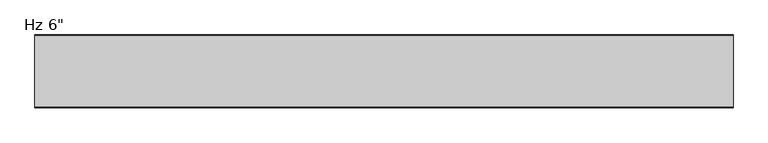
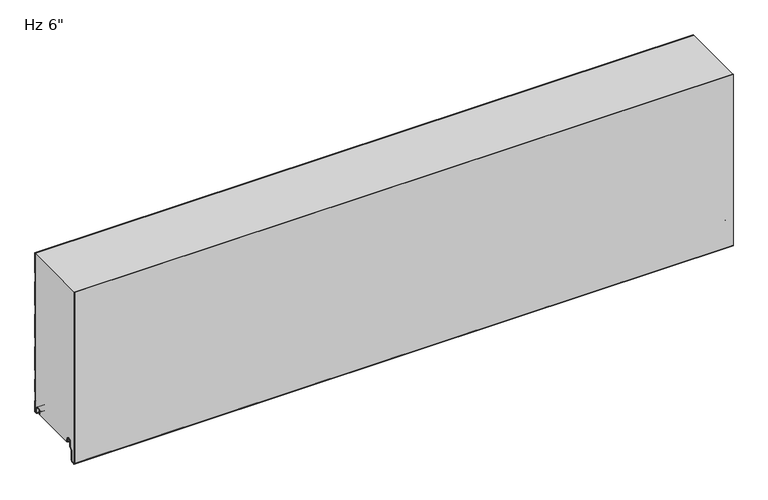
"""IFC4 building model written with IfcOpenShell, lengths in millimetres: plate geometry."""

from ifc_helpers import new_model, si_unit, point, frame, frame_2d, origin, place, context, project, spatial, polyline, circle_curve, trimmed, segment, composite_curve, outline, extrude, source, transform, mapped, element, save
from ifc_brep_helpers import plane_surface, cylinder_surface, revolved_surface, advanced_brep


def plate_f7d125d8(model_context):
    return source(origin(), model_context, "Body", "SolidModel", [
        extrude(outline(composite_curve([segment(trimmed(circle_curve(frame_2d((-148.8297607, -32.4521176)), 3.5702393), [point((-148.5184903, -36.008762))], [point((-152.4, -32.4521154))], False, "CARTESIAN"), True, "CONTINUOUS"), segment(polyline([(-152.4, -32.4521154), (-152.3997439, 368.0), (-151.3993606, 368.0), (-151.3993606, -32.509446)]), True, "CONTINUOUS"), segment(trimmed(circle_curve(frame_2d((-148.8297607, -32.4521176)), 2.5702393), [point((-151.3993606, -32.509446))], [point((-148.6056751, -35.0125699))], True, "CARTESIAN"), True, "CONTINUOUS"), segment(polyline([(-148.6056751, -35.0125699), (-143.6238542, -34.5765709)]), True, "CONTINUOUS"), segment(trimmed(circle_curve(frame_2d((-144.1052448, -31.9198392)), 2.6999926), [point((-143.6238542, -34.5765709))], [point((-141.4052522, -31.9198392))], True, "CARTESIAN"), True, "CONTINUOUS"), segment(polyline([(-141.4052522, -31.9198392), (-141.4052522, -9.8247096), (-135.9031811, -4.3226385)]), True, "CONTINUOUS"), segment(trimmed(circle_curve(frame_2d((-137.1052588, -3.1205608)), 1.6999946), [point((-135.9031811, -4.3226385))], [point((-135.4052642, -3.1205608))], True, "CARTESIAN"), True, "CONTINUOUS"), segment(polyline([(-135.4052642, -3.1205608), (-135.4052642, 8.6903283)]), True, "CONTINUOUS"), segment(trimmed(circle_curve(frame_2d((-132.0552689, 8.6903283)), 3.3499953), [point((-135.4052642, 8.6903283))], [point((-132.0552689, 12.0403236))], False, "CARTESIAN"), True, "CONTINUOUS"), segment(polyline([(-132.0552689, 12.0403236), (-127.6552777, 12.0403236)]), True, "CONTINUOUS"), segment(trimmed(circle_curve(frame_2d((-127.6552777, 8.6903283)), 3.3499953), [point((-127.6552777, 12.0403236))], [point((-124.3052824, 8.6903283))], False, "CARTESIAN"), True, "CONTINUOUS"), segment(polyline([(-124.3052824, 8.6903283), (-124.3052824, 5.9912173), (-122.9068035, 5.9912173), (-122.9068035, 2.2328239)]), True, "CONTINUOUS"), segment(trimmed(circle_curve(frame_2d((-124.1068002, 2.2313092)), 1.1999976), [point((-122.9068035, 2.2328239))], [point((-124.0762782, 1.0316999))], False, "CARTESIAN"), True, "CONTINUOUS"), segment(trimmed(circle_curve(frame_2d((-124.1068002, 2.2313092)), 1.1999976), [point((-124.0762782, 1.0316999))], [point((-125.3052824, 2.1710221))], False, "CARTESIAN"), True, "CONTINUOUS"), segment(polyline([(-125.3052824, 2.1710221), (-125.3052824, 8.6903283)]), True, "CONTINUOUS"), segment(trimmed(circle_curve(frame_2d((-127.6552777, 8.6903283)), 2.3499953), [point((-125.3052824, 8.6903283))], [point((-127.6552777, 11.0403236))], True, "CARTESIAN"), True, "CONTINUOUS"), segment(polyline([(-127.6552777, 11.0403236), (-132.0552689, 11.0403236)]), True, "CONTINUOUS"), segment(trimmed(circle_curve(frame_2d((-132.0552689, 8.6903283)), 2.3499953), [point((-132.0552689, 11.0403236))], [point((-134.4052642, 8.6903283))], True, "CARTESIAN"), True, "CONTINUOUS"), segment(polyline([(-134.4052642, 8.6903283), (-134.4052642, -3.1205608)]), True, "CONTINUOUS"), segment(trimmed(circle_curve(frame_2d((-137.1052588, -3.1205608)), 2.6999946), [point((-134.4052642, -3.1205608))], [point((-135.1960743, -5.0297453))], False, "CARTESIAN"), True, "CONTINUOUS"), segment(polyline([(-135.1960743, -5.0297453), (-140.0244918, -9.8581627)]), True, "CONTINUOUS"), segment(trimmed(circle_curve(frame_2d((-139.1052548, -10.7773997)), 1.2999974), [point((-140.0244918, -9.8581627))], [point((-140.4052522, -10.7773997))], True, "CARTESIAN"), True, "CONTINUOUS"), segment(polyline([(-140.4052522, -10.7773997), (-140.4052522, -31.9198392)]), True, "CONTINUOUS"), segment(trimmed(circle_curve(frame_2d((-144.1052448, -31.9198392)), 3.6999926), [point((-140.4052522, -31.9198392))], [point((-143.4944437, -35.5690675))], False, "CARTESIAN"), True, "CONTINUOUS"), segment(polyline([(-143.4944437, -35.5690675), (-148.5184903, -36.008762)]), True, "CONTINUOUS")], self_intersect=False)), frame((-730.0, 0.0, 0.0), z_axis=(1.0, 0.0, 0.0), x_axis=(0.0, 1.0, 0.0)), (0.0, 0.0, 1.0), 1460.0),
        advanced_brep(
        [(-730.0, -17.0015159, 2.0313088), (-730.0, -18.0015191, 1.0313115), (-730.0, -19.0015105, 2.0313088), (-730.0, -19.0015105, 6.0315124), (-730.0, -18.0015159, 6.0315124), (-730.0, -18.0015159, 8.7237222), (-730.0, -14.7015202, 12.0237179), (-730.0, -10.301529, 12.0237179), (-730.0, -7.0015335, 8.7237224), (-730.0, -7.0015335, -1.6962565), (-730.0, -5.2315393, -3.4662507), (-730.0, -0.9999916, -3.4662507), (-730.0, -0.9999916, 21.034026), (-730.0, -2.2002307, 22.4196686), (-730.0, -2.2002307, 41.7948349), (-730.0, -1.0, 43.1804678), (-730.0, -1.0, 71.8338832), (-730.0, -2.2002307, 73.2195162), (-730.0, -2.2002307, 92.5946825), (-730.0, -1.0, 93.9803154), (-730.0, -1.0, 148.0337308), (-730.0, -2.2002307, 149.4193638), (-730.0, -2.2002307, 168.7945301), (-730.0, -1.0, 170.180163), (-730.0, -1.0, 224.2335784), (-730.0, -2.2002307, 225.6192114), (-730.0, -2.2002307, 244.9943777), (-730.0, -1.0, 246.3800106), (-730.0, -1.0, 300.433426), (-730.0, -2.2002307, 301.819059), (-730.0, -2.2002307, 321.1942253), (-730.0, -1.0, 322.5798582), (-730.0, -1.0, 368.0), (-730.0, 0.0, 368.0), (-730.0, 0.0, 322.7290094), (-730.0, -0.3417885, 321.8123925), (-730.0, -1.2002307, 320.8213449), (-730.0, -1.2002307, 302.1919394), (-730.0, -0.3417885, 301.2008918), (-730.0, 0.0, 300.2842749), (-730.0, 0.0, 246.5291618), (-730.0, -0.3417885, 245.6125449), (-730.0, -1.2002307, 244.6214973), (-730.0, -1.2002307, 225.9920918), (-730.0, -0.3417885, 225.0010442), (-730.0, 0.0, 224.0844273), (-730.0, 0.0, 170.3293142), (-730.0, -0.3417885, 169.4126973), (-730.0, -1.2002307, 168.4216497), (-730.0, -1.2002307, 149.7922442), (-730.0, -0.3417885, 148.8011966), (-730.0, 0.0, 147.8845797), (-730.0, 0.0, 94.1294666), (-730.0, -0.3417885, 93.2128497), (-730.0, -1.2002307, 92.2218021), (-730.0, -1.2002307, 73.5923966), (-730.0, -0.3417885, 72.601349), (-730.0, 0.0, 71.6847321), (-730.0, 0.0, 43.329619), (-730.0, -0.3417885, 42.4130021), (-730.0, -1.2002307, 41.4219545), (-730.0, -1.2002307, 22.792549), (-730.0, -0.3417885, 21.8015014), (-730.0, 0.0, 20.8847931), (-730.0, 8.4e-06, -3.0662545), (-730.0, -1.3999878, -4.4662507), (-730.0, -5.2315393, -4.4662507), (-730.0, -8.0015335, -1.6962565), (-730.0, -8.0015335, 8.7237224), (-730.0, -10.301529, 11.0237179), (-730.0, -14.7015202, 11.0237179), (-730.0, -17.0015159, 8.7237222), (730.0, -17.0015159, 2.0313088), (730.0, -17.0015159, 8.7237222), (730.0, -14.7015202, 11.0237179), (730.0, -10.301529, 11.0237179), (730.0, -8.0015335, 8.7237224), (730.0, -8.0015335, -1.6962565), (730.0, -5.2315393, -4.4662507), (730.0, -1.3999878, -4.4662507), (730.0, 8.4e-06, -3.0662545), (730.0, 8.4e-06, 20.8848845), (730.0, -0.3417885, 21.8015014), (730.0, -1.2002307, 22.792549), (730.0, -1.2002307, 41.4219545), (730.0, -0.3417885, 42.4130021), (730.0, 0.0, 43.329619), (730.0, 0.0, 71.6847321), (730.0, -0.3417885, 72.601349), (730.0, -1.2002307, 73.5923966), (730.0, -1.2002307, 92.2218021), (730.0, -0.3417885, 93.2128497), (730.0, 0.0, 94.1294666), (730.0, 0.0, 147.8845797), (730.0, -0.3417885, 148.8011966), (730.0, -1.2002307, 149.7922442), (730.0, -1.2002307, 168.4216497), (730.0, -0.3417885, 169.4126973), (730.0, 0.0, 170.3293142), (730.0, 0.0, 224.0844273), (730.0, -0.3417885, 225.0010442), (730.0, -1.2002307, 225.9920918), (730.0, -1.2002307, 244.6214973), (730.0, -0.3417885, 245.6125449), (730.0, 0.0, 246.5291618), (730.0, 0.0, 300.2842749), (730.0, -0.3417885, 301.2008918), (730.0, -1.2002307, 302.1919394), (730.0, -1.2002307, 320.8213449), (730.0, -0.3417885, 321.8123925), (730.0, 0.0, 322.7290094), (730.0, 0.0, 368.0), (730.0, -1.0, 368.0), (730.0, -1.0, 322.5798582), (730.0, -2.2002307, 321.1942253), (730.0, -2.2002307, 301.819059), (730.0, -1.0, 300.433426), (730.0, -1.0, 246.3800106), (730.0, -2.2002307, 244.9943777), (730.0, -2.2002307, 225.6192114), (730.0, -1.0, 224.2335784), (730.0, -1.0, 170.180163), (730.0, -2.2002307, 168.7945301), (730.0, -2.2002307, 149.4193638), (730.0, -1.0, 148.0337308), (730.0, -1.0, 93.9803154), (730.0, -2.2002307, 92.5946825), (730.0, -2.2002307, 73.2195162), (730.0, -1.0, 71.8338832), (730.0, -1.0, 43.1804678), (730.0, -2.2002307, 41.7948349), (730.0, -2.2002307, 22.4196686), (730.0, -0.9999916, 21.034026), (730.0, -0.9999916, -3.4662507), (730.0, -5.2315393, -3.4662507), (730.0, -7.0015335, -1.6962565), (730.0, -7.0015335, 8.7237224), (730.0, -10.301529, 12.0237179), (730.0, -14.7015202, 12.0237179), (730.0, -18.0015159, 8.7237222), (730.0, -18.0015159, 6.0315124), (730.0, -19.0015105, 6.0315124), (730.0, -19.0015105, 2.0313088), (730.0, -18.0015192, 1.0313116)],
        [
            (0, 1, circle_curve(frame((-730.0, -18.0015132, 2.0313088), z_axis=(-1.0, 0.0, 0.0), x_axis=(0.0, 0.0, 1.0)), 0.9999973)),
            (1, 2, circle_curve(frame((-730.0, -18.0015133, 2.0313088), z_axis=(-1.0, 0.0, 0.0), x_axis=(0.0, 0.0, 1.0)), 0.9999972)),
            (2, 3),
            (3, 4),
            (4, 5),
            (5, 6, circle_curve(frame((-730.0, -14.7015202, 8.7237222), z_axis=(-1.0, 0.0, 0.0), x_axis=(0.0, 0.0, 1.0)), 3.2999957)),
            (6, 7),
            (7, 8, circle_curve(frame((-730.0, -10.301529, 8.7237224), z_axis=(-1.0, 0.0, 0.0), x_axis=(0.0, 0.0, 1.0)), 3.2999955)),
            (8, 9),
            (9, 10, circle_curve(frame((-730.0, -5.2315393, -1.6962565), z_axis=(1.0, 0.0, 0.0), x_axis=(0.0, 0.0, 1.0)), 1.7699942)),
            (10, 11),
            (11, 12),
            (12, 13),
            (13, 14),
            (14, 15),
            (15, 16),
            (16, 17),
            (17, 18),
            (18, 19),
            (19, 20),
            (20, 21),
            (21, 22),
            (22, 23),
            (23, 24),
            (24, 25),
            (25, 26),
            (26, 27),
            (27, 28),
            (28, 29),
            (29, 30),
            (30, 31),
            (31, 32),
            (32, 33),
            (33, 34),
            (34, 35, circle_curve(frame((-730.0, -1.3999972, 322.7290094), z_axis=(-1.0, 0.0, 0.0), x_axis=(0.0, 0.0, 1.0)), 1.3999972)),
            (35, 36),
            (36, 37),
            (37, 38),
            (38, 39, circle_curve(frame((-730.0, -1.3999972, 300.2842749), z_axis=(-1.0, 0.0, 0.0), x_axis=(0.0, 0.0, 1.0)), 1.3999972)),
            (39, 40),
            (40, 41, circle_curve(frame((-730.0, -1.3999972, 246.5291618), z_axis=(-1.0, 0.0, 0.0), x_axis=(0.0, 0.0, 1.0)), 1.3999972)),
            (41, 42),
            (42, 43),
            (43, 44),
            (44, 45, circle_curve(frame((-730.0, -1.3999972, 224.0844273), z_axis=(-1.0, 0.0, 0.0), x_axis=(0.0, 0.0, 1.0)), 1.3999972)),
            (45, 46),
            (46, 47, circle_curve(frame((-730.0, -1.3999972, 170.3293142), z_axis=(-1.0, 0.0, 0.0), x_axis=(0.0, 0.0, 1.0)), 1.3999972)),
            (47, 48),
            (48, 49),
            (49, 50),
            (50, 51, circle_curve(frame((-730.0, -1.3999972, 147.8845797), z_axis=(-1.0, 0.0, 0.0), x_axis=(0.0, 0.0, 1.0)), 1.3999972)),
            (51, 52),
            (52, 53, circle_curve(frame((-730.0, -1.3999972, 94.1294666), z_axis=(-1.0, 0.0, 0.0), x_axis=(0.0, 0.0, 1.0)), 1.3999972)),
            (53, 54),
            (54, 55),
            (55, 56),
            (56, 57, circle_curve(frame((-730.0, -1.3999972, 71.6847321), z_axis=(-1.0, 0.0, 0.0), x_axis=(0.0, 0.0, 1.0)), 1.3999972)),
            (57, 58),
            (58, 59, circle_curve(frame((-730.0, -1.3999972, 43.329619), z_axis=(-1.0, 0.0, 0.0), x_axis=(0.0, 0.0, 1.0)), 1.3999972)),
            (59, 60),
            (60, 61),
            (61, 62),
            (62, 63, circle_curve(frame((-730.0, -1.3999972, 20.8848845), z_axis=(-1.0, 0.0, 0.0), x_axis=(0.0, 0.0, 1.0)), 1.3999972)),
            (63, 64),
            (64, 65, circle_curve(frame((-730.0, -1.3999878, -3.0662545), z_axis=(-1.0, 0.0, 0.0), x_axis=(0.0, 0.0, 1.0)), 1.3999962)),
            (65, 66),
            (66, 67, circle_curve(frame((-730.0, -5.2315393, -1.6962565), z_axis=(-1.0, 0.0, 0.0), x_axis=(0.0, 0.0, 1.0)), 2.7699942)),
            (67, 68),
            (68, 69, circle_curve(frame((-730.0, -10.301529, 8.7237224), z_axis=(1.0, 0.0, 0.0), x_axis=(0.0, 0.0, 1.0)), 2.2999955)),
            (69, 70),
            (70, 71, circle_curve(frame((-730.0, -14.7015202, 8.7237222), z_axis=(1.0, 0.0, 0.0), x_axis=(0.0, 0.0, 1.0)), 2.2999957)),
            (71, 0),
            (72, 73),
            (73, 74, circle_curve(frame((730.0, -14.7015202, 8.7237222), z_axis=(-1.0, 0.0, 0.0), x_axis=(0.0, 0.0, 1.0)), 2.2999957)),
            (74, 75),
            (75, 76, circle_curve(frame((730.0, -10.301529, 8.7237224), z_axis=(-1.0, 0.0, 0.0), x_axis=(0.0, 0.0, 1.0)), 2.2999955)),
            (76, 77),
            (77, 78, circle_curve(frame((730.0, -5.2315393, -1.6962565), z_axis=(1.0, 0.0, 0.0), x_axis=(0.0, 0.0, 1.0)), 2.7699942)),
            (78, 79),
            (79, 80, circle_curve(frame((730.0, -1.3999878, -3.0662545), z_axis=(1.0, 0.0, 0.0), x_axis=(0.0, 0.0, 1.0)), 1.3999962)),
            (80, 81),
            (81, 82, circle_curve(frame((730.0, -1.3999972, 20.8848845), z_axis=(1.0, 0.0, 0.0), x_axis=(0.0, 0.0, 1.0)), 1.3999972)),
            (82, 83),
            (83, 84),
            (84, 85),
            (85, 86, circle_curve(frame((730.0, -1.3999972, 43.329619), z_axis=(1.0, 0.0, 0.0), x_axis=(0.0, 0.0, 1.0)), 1.3999972)),
            (86, 87),
            (87, 88, circle_curve(frame((730.0, -1.3999972, 71.6847321), z_axis=(1.0, 0.0, 0.0), x_axis=(0.0, 0.0, 1.0)), 1.3999972)),
            (88, 89),
            (89, 90),
            (90, 91),
            (91, 92, circle_curve(frame((730.0, -1.3999972, 94.1294666), z_axis=(1.0, 0.0, 0.0), x_axis=(0.0, 0.0, 1.0)), 1.3999972)),
            (92, 93),
            (93, 94, circle_curve(frame((730.0, -1.3999972, 147.8845797), z_axis=(1.0, 0.0, 0.0), x_axis=(0.0, 0.0, 1.0)), 1.3999972)),
            (94, 95),
            (95, 96),
            (96, 97),
            (97, 98, circle_curve(frame((730.0, -1.3999972, 170.3293142), z_axis=(1.0, 0.0, 0.0), x_axis=(0.0, 0.0, 1.0)), 1.3999972)),
            (98, 99),
            (99, 100, circle_curve(frame((730.0, -1.3999972, 224.0844273), z_axis=(1.0, 0.0, 0.0), x_axis=(0.0, 0.0, 1.0)), 1.3999972)),
            (100, 101),
            (101, 102),
            (102, 103),
            (103, 104, circle_curve(frame((730.0, -1.3999972, 246.5291618), z_axis=(1.0, 0.0, 0.0), x_axis=(0.0, 0.0, 1.0)), 1.3999972)),
            (104, 105),
            (105, 106, circle_curve(frame((730.0, -1.3999972, 300.2842749), z_axis=(1.0, 0.0, 0.0), x_axis=(0.0, 0.0, 1.0)), 1.3999972)),
            (106, 107),
            (107, 108),
            (108, 109),
            (109, 110, circle_curve(frame((730.0, -1.3999972, 322.7290094), z_axis=(1.0, 0.0, 0.0), x_axis=(0.0, 0.0, 1.0)), 1.3999972)),
            (110, 111),
            (111, 112),
            (112, 113),
            (113, 114),
            (114, 115),
            (115, 116),
            (116, 117),
            (117, 118),
            (118, 119),
            (119, 120),
            (120, 121),
            (121, 122),
            (122, 123),
            (123, 124),
            (124, 125),
            (125, 126),
            (126, 127),
            (127, 128),
            (128, 129),
            (129, 130),
            (130, 131),
            (131, 132),
            (132, 133),
            (133, 134),
            (134, 135, circle_curve(frame((730.0, -5.2315393, -1.6962565), z_axis=(-1.0, 0.0, 0.0), x_axis=(0.0, 0.0, 1.0)), 1.7699942)),
            (135, 136),
            (136, 137, circle_curve(frame((730.0, -10.301529, 8.7237224), z_axis=(1.0, 0.0, 0.0), x_axis=(0.0, 0.0, 1.0)), 3.2999955)),
            (137, 138),
            (138, 139, circle_curve(frame((730.0, -14.7015202, 8.7237222), z_axis=(1.0, 0.0, 0.0), x_axis=(0.0, 0.0, 1.0)), 3.2999957)),
            (139, 140),
            (140, 141),
            (141, 142),
            (142, 143, circle_curve(frame((730.0, -18.0015133, 2.0313088), z_axis=(1.0, 0.0, 0.0), x_axis=(0.0, 0.0, 1.0)), 0.9999972)),
            (143, 72, circle_curve(frame((730.0, -18.0015132, 2.0313088), z_axis=(1.0, 0.0, 0.0), x_axis=(0.0, 0.0, 1.0)), 0.9999973)),
            (32, 112),
            (111, 33),
            (67, 77),
            (76, 68),
            (0, 72),
            (143, 1),
            (71, 73),
            (70, 74),
            (75, 69),
            (65, 79),
            (78, 66),
            (64, 80),
            (63, 81),
            (2, 142),
            (141, 3),
            (56, 88),
            (87, 57),
            (61, 83),
            (82, 62),
            (60, 84),
            (58, 86),
            (85, 59),
            (50, 94),
            (93, 51),
            (54, 90),
            (89, 55),
            (52, 92),
            (91, 53),
            (44, 100),
            (99, 45),
            (48, 96),
            (95, 49),
            (46, 98),
            (97, 47),
            (38, 106),
            (105, 39),
            (42, 102),
            (101, 43),
            (40, 104),
            (103, 41),
            (36, 108),
            (107, 37),
            (34, 110),
            (109, 35),
            (27, 117),
            (116, 28),
            (115, 29),
            (114, 30),
            (113, 31),
            (26, 118),
            (25, 119),
            (24, 120),
            (23, 121),
            (22, 122),
            (21, 123),
            (20, 124),
            (19, 125),
            (18, 126),
            (17, 127),
            (16, 128),
            (15, 129),
            (14, 130),
            (140, 4),
            (139, 5),
            (138, 6),
            (137, 7),
            (136, 8),
            (135, 9),
            (12, 132),
            (131, 13),
            (11, 133),
            (10, 134),
        ],
        [
            plane_surface(frame((-730.0, 0.0, 508.0), z_axis=(-1.0, 0.0, 0.0), x_axis=(0.0, 1.0, 0.0))),
            plane_surface(frame((730.0, 0.0, 508.0), z_axis=(1.0, 0.0, 0.0), x_axis=(0.0, 1.0, 0.0))),
            plane_surface(frame((730.0, 10.0, 368.0), z_axis=(0.0, 0.0, 1.0), x_axis=(-1.0, 0.0, 0.0))),
            plane_surface(frame((-730.0, -8.0015335, 8.7237224), z_axis=(0.0, -1.0, 0.0), x_axis=(1.0, 0.0, 0.0))),
            cylinder_surface(frame((-730.0, -18.0015132, 2.0313088), z_axis=(-1.0, 0.0, 0.0), x_axis=(0.0, 0.0, 1.0)), 0.9999973),
            plane_surface(frame((-730.0, -17.0015159, 2.0313088), z_axis=(0.0, 1.0, 0.0), x_axis=(1.0, 0.0, 0.0))),
            revolved_surface(polyline([(730.0, -14.7015202, 11.0237179), (-730.0, -14.7015202, 11.0237179)]), (-730.0, -14.7015202, 8.7237222), (1.0, 0.0, 0.0)),
            revolved_surface(polyline([(730.0, -10.301529, 11.0237179), (-730.0, -10.301529, 11.0237179)]), (-730.0, -10.301529, 8.7237224), (1.0, 0.0, 0.0)),
            plane_surface(frame((-730.0, -14.7015202, 11.0237179), z_axis=(0.0, 0.0, -1.0), x_axis=(1.0, 0.0, 0.0))),
            plane_surface(frame((-730.0, -5.2315393, -4.4662507), z_axis=(0.0, 0.0, -1.0), x_axis=(1.0, 0.0, 0.0))),
            cylinder_surface(frame((-730.0, -1.3999878, -3.0662545), z_axis=(-1.0, 0.0, 0.0), x_axis=(0.0, 0.0, 1.0)), 1.3999962),
            cylinder_surface(frame((-730.0, -5.2315393, -1.6962565), z_axis=(-1.0, 0.0, 0.0), x_axis=(0.0, 0.0, 1.0)), 2.7699942),
            plane_surface(frame((-730.0, 8.4e-06, -3.0662545), z_axis=(0.0, 1.0, 0.0), x_axis=(1.0, 0.0, 0.0))),
            plane_surface(frame((-730.0, -19.0015105, 6.0315124), z_axis=(0.0, -1.0, 0.0), x_axis=(1.0, 0.0, 0.0))),
            cylinder_surface(frame((-730.0, -18.0015133, 2.0313088), z_axis=(-1.0, 0.0, 0.0), x_axis=(0.0, 0.0, 1.0)), 0.9999972),
            cylinder_surface(frame((-730.0, -1.3999972, 71.6847321), z_axis=(-1.0, 0.0, 0.0), x_axis=(0.0, 0.0, 1.0)), 1.3999972),
            plane_surface(frame((-730.0, -0.3417885, 21.8015014), z_axis=(0.0, 0.755864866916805, 0.6547276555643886), x_axis=(1.0, 0.0, 0.0))),
            plane_surface(frame((-730.0, -1.2002307, 32.1072517), z_axis=(0.0, 1.0, 0.0), x_axis=(1.0, 0.0, 0.0))),
            cylinder_surface(frame((-730.0, -1.3999972, 20.8848845), z_axis=(-1.0, 0.0, 0.0), x_axis=(0.0, 0.0, 1.0)), 1.3999972),
            cylinder_surface(frame((-730.0, -1.3999972, 43.329619), z_axis=(-1.0, 0.0, 0.0), x_axis=(0.0, 0.0, 1.0)), 1.3999972),
            plane_surface(frame((-730.0, -1.2002307, 41.4219545), z_axis=(0.0, 0.755864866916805, -0.6547276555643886), x_axis=(1.0, 0.0, 0.0))),
            cylinder_surface(frame((-730.0, -1.3999972, 147.8845797), z_axis=(-1.0, 0.0, 0.0), x_axis=(0.0, 0.0, 1.0)), 1.3999972),
            plane_surface(frame((-730.0, -1.2002307, 82.9070993), z_axis=(0.0, 1.0, 0.0), x_axis=(1.0, 0.0, 0.0))),
            cylinder_surface(frame((-730.0, -1.3999972, 94.1294666), z_axis=(-1.0, 0.0, 0.0), x_axis=(0.0, 0.0, 1.0)), 1.3999972),
            plane_surface(frame((-730.0, -0.3417885, 72.601349), z_axis=(0.0, 0.755864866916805, 0.6547276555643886), x_axis=(1.0, 0.0, 0.0))),
            plane_surface(frame((-730.0, -1.2002307, 92.2218021), z_axis=(0.0, 0.755864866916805, -0.6547276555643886), x_axis=(1.0, 0.0, 0.0))),
            plane_surface(frame((-730.0, 0.0, 43.329619), z_axis=(0.0, 1.0, 0.0), x_axis=(1.0, 0.0, 0.0))),
            cylinder_surface(frame((-730.0, -1.3999972, 224.0844273), z_axis=(-1.0, 0.0, 0.0), x_axis=(0.0, 0.0, 1.0)), 1.3999972),
            plane_surface(frame((-730.0, -1.2002307, 159.1069469), z_axis=(0.0, 1.0, 0.0), x_axis=(1.0, 0.0, 0.0))),
            cylinder_surface(frame((-730.0, -1.3999972, 170.3293142), z_axis=(-1.0, 0.0, 0.0), x_axis=(0.0, 0.0, 1.0)), 1.3999972),
            plane_surface(frame((-730.0, -0.3417885, 148.8011966), z_axis=(0.0, 0.755864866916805, 0.6547276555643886), x_axis=(1.0, 0.0, 0.0))),
            plane_surface(frame((-730.0, -1.2002307, 168.4216497), z_axis=(0.0, 0.755864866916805, -0.6547276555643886), x_axis=(1.0, 0.0, 0.0))),
            plane_surface(frame((-730.0, 0.0, 94.1294666), z_axis=(0.0, 1.0, 0.0), x_axis=(1.0, 0.0, 0.0))),
            cylinder_surface(frame((-730.0, -1.3999972, 300.2842749), z_axis=(-1.0, 0.0, 0.0), x_axis=(0.0, 0.0, 1.0)), 1.3999972),
            plane_surface(frame((-730.0, -1.2002307, 235.3067945), z_axis=(0.0, 1.0, 0.0), x_axis=(1.0, 0.0, 0.0))),
            cylinder_surface(frame((-730.0, -1.3999972, 246.5291618), z_axis=(-1.0, 0.0, 0.0), x_axis=(0.0, 0.0, 1.0)), 1.3999972),
            plane_surface(frame((-730.0, -0.3417885, 225.0010442), z_axis=(0.0, 0.755864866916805, 0.6547276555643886), x_axis=(1.0, 0.0, 0.0))),
            plane_surface(frame((-730.0, -1.2002307, 244.6214973), z_axis=(0.0, 0.755864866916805, -0.6547276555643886), x_axis=(1.0, 0.0, 0.0))),
            plane_surface(frame((-730.0, 0.0, 170.3293142), z_axis=(0.0, 1.0, 0.0), x_axis=(1.0, 0.0, 0.0))),
            plane_surface(frame((-730.0, -1.2002307, 311.5066421), z_axis=(0.0, 1.0, 0.0), x_axis=(1.0, 0.0, 0.0))),
            cylinder_surface(frame((-730.0, -1.3999972, 322.7290094), z_axis=(-1.0, 0.0, 0.0), x_axis=(0.0, 0.0, 1.0)), 1.3999972),
            plane_surface(frame((-730.0, -0.3417885, 301.2008918), z_axis=(0.0, 0.755864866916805, 0.6547276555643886), x_axis=(1.0, 0.0, 0.0))),
            plane_surface(frame((-730.0, -1.2002307, 320.8213449), z_axis=(0.0, 0.755864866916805, -0.6547276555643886), x_axis=(1.0, 0.0, 0.0))),
            plane_surface(frame((-730.0, 0.0, 246.5291618), z_axis=(0.0, 1.0, 0.0), x_axis=(1.0, 0.0, 0.0))),
            plane_surface(frame((-730.0, 0.0, 322.7290094), z_axis=(0.0, 1.0, 0.0), x_axis=(1.0, 0.0, 0.0))),
            plane_surface(frame((-730.0, -1.0, 300.433426), z_axis=(0.0, -1.0, 0.0), x_axis=(1.0, 0.0, 0.0))),
            plane_surface(frame((-730.0, -2.2002307, 301.819059), z_axis=(0.0, -0.755864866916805, -0.6547276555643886), x_axis=(1.0, 0.0, 0.0))),
            plane_surface(frame((-730.0, -2.2002307, 321.1942253), z_axis=(0.0, -1.0, 0.0), x_axis=(1.0, 0.0, 0.0))),
            plane_surface(frame((-730.0, -1.0, 322.5798582), z_axis=(0.0, -0.755864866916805, 0.6547276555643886), x_axis=(1.0, 0.0, 0.0))),
            plane_surface(frame((-730.0, -1.0, 376.6332736), z_axis=(0.0, -1.0, 0.0), x_axis=(1.0, 0.0, 0.0))),
            plane_surface(frame((-730.0, -1.0, 246.3800106), z_axis=(0.0, -0.755864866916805, 0.6547276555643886), x_axis=(1.0, 0.0, 0.0))),
            plane_surface(frame((-730.0, -2.2002307, 244.9943777), z_axis=(0.0, -1.0, 0.0), x_axis=(1.0, 0.0, 0.0))),
            plane_surface(frame((-730.0, -2.2002307, 225.6192114), z_axis=(0.0, -0.755864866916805, -0.6547276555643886), x_axis=(1.0, 0.0, 0.0))),
            plane_surface(frame((-730.0, -1.0, 224.2335784), z_axis=(0.0, -1.0, 0.0), x_axis=(1.0, 0.0, 0.0))),
            plane_surface(frame((-730.0, -1.0, 170.180163), z_axis=(0.0, -0.755864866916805, 0.6547276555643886), x_axis=(1.0, 0.0, 0.0))),
            plane_surface(frame((-730.0, -2.2002307, 168.7945301), z_axis=(0.0, -1.0, 0.0), x_axis=(1.0, 0.0, 0.0))),
            plane_surface(frame((-730.0, -2.2002307, 149.4193638), z_axis=(0.0, -0.755864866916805, -0.6547276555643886), x_axis=(1.0, 0.0, 0.0))),
            plane_surface(frame((-730.0, -1.0, 148.0337308), z_axis=(0.0, -1.0, 0.0), x_axis=(1.0, 0.0, 0.0))),
            plane_surface(frame((-730.0, -1.0, 93.9803154), z_axis=(0.0, -0.755864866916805, 0.6547276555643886), x_axis=(1.0, 0.0, 0.0))),
            plane_surface(frame((-730.0, -2.2002307, 92.5946825), z_axis=(0.0, -1.0, 0.0), x_axis=(1.0, 0.0, 0.0))),
            plane_surface(frame((-730.0, -2.2002307, 73.2195162), z_axis=(0.0, -0.755864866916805, -0.6547276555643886), x_axis=(1.0, 0.0, 0.0))),
            plane_surface(frame((-730.0, -1.0, 71.8338832), z_axis=(0.0, -1.0, 0.0), x_axis=(1.0, 0.0, 0.0))),
            plane_surface(frame((-730.0, -1.0, 43.1804678), z_axis=(0.0, -0.755864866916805, 0.6547276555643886), x_axis=(1.0, 0.0, 0.0))),
            plane_surface(frame((-730.0, -18.0015159, 6.0315124), z_axis=(0.0, 0.0, 1.0), x_axis=(1.0, 0.0, 0.0))),
            plane_surface(frame((-730.0, -18.0015159, 8.7237222), z_axis=(0.0, -1.0, 0.0), x_axis=(1.0, 0.0, 0.0))),
            cylinder_surface(frame((-730.0, -14.7015202, 8.7237222), z_axis=(-1.0, 0.0, 0.0), x_axis=(0.0, 0.0, 1.0)), 3.2999957),
            plane_surface(frame((-730.0, -10.301529, 12.0237179), z_axis=(0.0, 0.0, 1.0), x_axis=(1.0, 0.0, 0.0))),
            cylinder_surface(frame((-730.0, -10.301529, 8.7237224), z_axis=(-1.0, 0.0, 0.0), x_axis=(0.0, 0.0, 1.0)), 3.2999955),
            plane_surface(frame((-730.0, -7.0015335, -1.6962565), z_axis=(0.0, 1.0, 0.0), x_axis=(1.0, 0.0, 0.0))),
            plane_surface(frame((-730.0, -2.2002307, 22.4196686), z_axis=(0.0, -0.755864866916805, -0.6547276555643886), x_axis=(1.0, 0.0, 0.0))),
            plane_surface(frame((-730.0, -2.2002307, 41.7948349), z_axis=(0.0, -1.0, 0.0), x_axis=(1.0, 0.0, 0.0))),
            plane_surface(frame((-730.0, -0.9999916, 21.034026), z_axis=(0.0, -1.0, 0.0), x_axis=(1.0, 0.0, 0.0))),
            plane_surface(frame((-730.0, -0.9999916, -3.4662507), z_axis=(0.0, 0.0, 1.0), x_axis=(1.0, 0.0, 0.0))),
            revolved_surface(polyline([(730.0, -5.2315393, 0.0737376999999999), (-730.0, -5.2315393, 0.0737376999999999)]), (-730.0, -5.2315393, -1.6962565), (1.0, 0.0, 0.0)),
        ],
        [
            (0, [[1, 2, 3, 4, 5, 6, 7, 8, 9, 10, 11, 12, 13, 14, 15, 16, 17, 18, 19, 20, 21, 22, 23, 24, 25, 26, 27, 28, 29, 30, 31, 32, 33, 34, 35, 36, 37, 38, 39, 40, 41, 42, 43, 44, 45, 46, 47, 48, 49, 50, 51, 52, 53, 54, 55, 56, 57, 58, 59, 60, 61, 62, 63, 64, 65, 66, 67, 68, 69, 70, 71, 72]]),
            (1, [[73, 74, 75, 76, 77, 78, 79, 80, 81, 82, 83, 84, 85, 86, 87, 88, 89, 90, 91, 92, 93, 94, 95, 96, 97, 98, 99, 100, 101, 102, 103, 104, 105, 106, 107, 108, 109, 110, 111, 112, 113, 114, 115, 116, 117, 118, 119, 120, 121, 122, 123, 124, 125, 126, 127, 128, 129, 130, 131, 132, 133, 134, 135, 136, 137, 138, 139, 140, 141, 142, 143, 144]]),
            (2, [[145, -112, 146, -33]]),
            (3, [[147, -77, 148, -68]]),
            (4, [[149, -144, 150, -1]]),
            (5, [[151, -73, -149, -72]]),
            (6, [[152, -74, -151, -71]]),
            (7, [[-148, -76, 153, -69]]),
            (8, [[-153, -75, -152, -70]]),
            (9, [[154, -79, 155, -66]]),
            (10, [[156, -80, -154, -65]]),
            (11, [[-155, -78, -147, -67]]),
            (12, [[157, -81, -156, -64]]),
            (13, [[158, -142, 159, -3]]),
            (14, [[-150, -143, -158, -2]]),
            (15, [[160, -88, 161, -57]]),
            (16, [[162, -83, 163, -62]]),
            (17, [[164, -84, -162, -61]]),
            (18, [[-163, -82, -157, -63]]),
            (19, [[165, -86, 166, -59]]),
            (20, [[-166, -85, -164, -60]]),
            (21, [[167, -94, 168, -51]]),
            (22, [[169, -90, 170, -55]]),
            (23, [[171, -92, 172, -53]]),
            (24, [[-170, -89, -160, -56]]),
            (25, [[-172, -91, -169, -54]]),
            (26, [[-161, -87, -165, -58]]),
            (27, [[173, -100, 174, -45]]),
            (28, [[175, -96, 176, -49]]),
            (29, [[177, -98, 178, -47]]),
            (30, [[-176, -95, -167, -50]]),
            (31, [[-178, -97, -175, -48]]),
            (32, [[-168, -93, -171, -52]]),
            (33, [[179, -106, 180, -39]]),
            (34, [[181, -102, 182, -43]]),
            (35, [[183, -104, 184, -41]]),
            (36, [[-182, -101, -173, -44]]),
            (37, [[-184, -103, -181, -42]]),
            (38, [[-174, -99, -177, -46]]),
            (39, [[185, -108, 186, -37]]),
            (40, [[187, -110, 188, -35]]),
            (41, [[-186, -107, -179, -38]]),
            (42, [[-188, -109, -185, -36]]),
            (43, [[-180, -105, -183, -40]]),
            (44, [[-34, -146, -111, -187]]),
            (45, [[189, -117, 190, -28]]),
            (46, [[-190, -116, 191, -29]]),
            (47, [[-191, -115, 192, -30]]),
            (48, [[-192, -114, 193, -31]]),
            (49, [[-113, -145, -32, -193]]),
            (50, [[194, -118, -189, -27]]),
            (51, [[195, -119, -194, -26]]),
            (52, [[196, -120, -195, -25]]),
            (53, [[197, -121, -196, -24]]),
            (54, [[198, -122, -197, -23]]),
            (55, [[199, -123, -198, -22]]),
            (56, [[200, -124, -199, -21]]),
            (57, [[201, -125, -200, -20]]),
            (58, [[202, -126, -201, -19]]),
            (59, [[203, -127, -202, -18]]),
            (60, [[204, -128, -203, -17]]),
            (61, [[205, -129, -204, -16]]),
            (62, [[206, -130, -205, -15]]),
            (63, [[-159, -141, 207, -4]]),
            (64, [[-207, -140, 208, -5]]),
            (65, [[-208, -139, 209, -6]]),
            (66, [[-209, -138, 210, -7]]),
            (67, [[-210, -137, 211, -8]]),
            (68, [[-211, -136, 212, -9]]),
            (69, [[213, -132, 214, -13]]),
            (70, [[-214, -131, -206, -14]]),
            (71, [[215, -133, -213, -12]]),
            (72, [[216, -134, -215, -11]]),
            (73, [[-212, -135, -216, -10]]),
        ],
    ),
        advanced_brep(
        [(-730.0, -124.070875, 1.0316999), (-730.0, -122.9014003, 2.2328239), (-730.0, -122.9014003, 5.9912173), (-730.0, -124.2998791, 5.9912173), (-730.0, -124.2998791, 8.6903283), (-730.0, -127.6498744, 12.0403236), (-730.0, -132.0498656, 12.0403236), (-730.0, -135.3998609, 8.6903283), (-730.0, -135.3998609, -3.1205608), (-730.0, -135.8977778, -4.3226385), (-730.0, -141.3998489, -9.8247096), (-730.0, -141.3998489, -31.9198392), (-730.0, -143.6184509, -34.5765709), (-730.0, -148.6002718, -35.0125699), (-730.0, -151.3945967, -32.4521176), (-730.0, -151.4, 368.0), (-730.0, -1.0, 368.0), (-730.0, -1.0, 322.5798583), (-730.0, -2.2002307, 321.1942253), (-730.0, -2.2002307, 301.819059), (-730.0, -1.0, 300.4334261), (-730.0, -1.0, 246.3800107), (-730.0, -2.2002307, 244.9943777), (-730.0, -2.2002307, 225.6192114), (-730.0, -1.0, 224.2335785), (-730.0, -1.0, 170.1801631), (-730.0, -2.2002307, 168.7945301), (-730.0, -2.2002307, 149.4193638), (-730.0, -1.0, 148.0337309), (-730.0, -1.0, 93.9803155), (-730.0, -2.2002307, 92.5946825), (-730.0, -2.2002307, 73.2195162), (-730.0, -1.0, 71.8338833), (-730.0, -1.0, 43.1804679), (-730.0, -2.2002307, 41.7948349), (-730.0, -2.2002307, 22.4196686), (-730.0, -0.9999916, 21.034026), (-730.0, -0.9999916, -3.4662506), (-730.0, -5.2315389, -3.4662506), (-730.0, -7.0015331, -1.6962564), (-730.0, -7.0015331, 8.7237221), (-730.0, -10.301529, 12.023718), (-730.0, -14.7015202, 12.023718), (-730.0, -18.0015159, 8.7237223), (-730.0, -18.0015159, 6.0315125), (-730.0, -19.0015105, 6.0315125), (-730.0, -19.0015105, 2.0313088), (-730.0, -18.0015192, 1.0313116), (-730.0, -19.0328308, 0.0), (-730.0, -123.0391751, 0.0), (730.0, -124.070875, 1.0316999), (730.0, -123.0391751, 0.0), (730.0, -19.0328308, 0.0), (730.0, -18.0015192, 1.0313116), (730.0, -19.0015105, 2.0313088), (730.0, -19.0015105, 6.0315125), (730.0, -18.0015159, 6.0315125), (730.0, -18.0015159, 8.7237223), (730.0, -14.7015202, 12.023718), (730.0, -10.301529, 12.023718), (730.0, -7.0015331, 8.7237221), (730.0, -7.0015331, -1.6962564), (730.0, -5.2315389, -3.4662506), (730.0, -0.9999916, -3.4662506), (730.0, -0.9999916, 21.034026), (730.0, -2.2002307, 22.4196686), (730.0, -2.2002307, 41.7948349), (730.0, -1.0, 43.1804679), (730.0, -1.0, 71.8338833), (730.0, -2.2002307, 73.2195162), (730.0, -2.2002307, 92.5946825), (730.0, -1.0, 93.9803155), (730.0, -1.0, 148.0337309), (730.0, -2.2002307, 149.4193638), (730.0, -2.2002307, 168.7945301), (730.0, -1.0, 170.1801631), (730.0, -1.0, 224.2335785), (730.0, -2.2002307, 225.6192114), (730.0, -2.2002307, 244.9943777), (730.0, -1.0, 246.3800107), (730.0, -1.0, 300.4334261), (730.0, -2.2002307, 301.819059), (730.0, -2.2002307, 321.1942253), (730.0, -1.0, 322.5798583), (730.0, -1.0, 368.0), (730.0, -151.4, 368.0), (730.0, -151.4, -32.4521176), (730.0, -148.6002718, -35.0125699), (730.0, -143.6184509, -34.5765709), (730.0, -141.3998489, -31.9198392), (730.0, -141.3998489, -9.8247096), (730.0, -135.8977778, -4.3226385), (730.0, -135.3998609, -3.1205608), (730.0, -135.3998609, 8.6903283), (730.0, -132.0498656, 12.0403236), (730.0, -127.6498744, 12.0403236), (730.0, -124.2998791, 8.6903283), (730.0, -124.2998791, 5.9912173), (730.0, -122.9014003, 5.9912173), (730.0, -122.9014003, 2.2328239)],
        [
            (0, 1, circle_curve(frame((-730.0, -124.1013969, 2.2313092), z_axis=(1.0, 0.0, 0.0), x_axis=(0.0, 0.0, -1.0)), 1.1999976)),
            (1, 2),
            (2, 3),
            (3, 4),
            (4, 5, circle_curve(frame((-730.0, -127.6498744, 8.6903283), z_axis=(1.0, 0.0, 0.0), x_axis=(0.0, 0.0, -1.0)), 3.3499953)),
            (5, 6),
            (6, 7, circle_curve(frame((-730.0, -132.0498656, 8.6903283), z_axis=(1.0, 0.0, 0.0), x_axis=(0.0, 0.0, -1.0)), 3.3499953)),
            (7, 8),
            (8, 9, circle_curve(frame((-730.0, -137.0998555, -3.1205608), z_axis=(-1.0, 0.0, 0.0), x_axis=(0.0, 0.0, -1.0)), 1.6999946)),
            (9, 10),
            (10, 11),
            (11, 12, circle_curve(frame((-730.0, -144.0998415, -31.9198392), z_axis=(-1.0, 0.0, 0.0), x_axis=(0.0, 0.0, -1.0)), 2.6999926)),
            (12, 13),
            (13, 14, circle_curve(frame((-730.0, -148.8243575, -32.4521176), z_axis=(-1.0, 0.0, 0.0), x_axis=(0.0, 0.0, -1.0)), 2.5702393)),
            (14, 15),
            (15, 16),
            (16, 17),
            (17, 18),
            (18, 19),
            (19, 20),
            (20, 21),
            (21, 22),
            (22, 23),
            (23, 24),
            (24, 25),
            (25, 26),
            (26, 27),
            (27, 28),
            (28, 29),
            (29, 30),
            (30, 31),
            (31, 32),
            (32, 33),
            (33, 34),
            (34, 35),
            (35, 36),
            (36, 37),
            (37, 38),
            (38, 39, circle_curve(frame((-730.0, -5.2315389, -1.6962564), z_axis=(-1.0, 0.0, 0.0), x_axis=(0.0, 0.0, -1.0)), 1.7699942)),
            (39, 40),
            (40, 41, circle_curve(frame((-730.0, -10.301529, 8.7237221), z_axis=(1.0, 0.0, 0.0), x_axis=(0.0, 0.0, -1.0)), 3.2999959)),
            (41, 42),
            (42, 43, circle_curve(frame((-730.0, -14.7015202, 8.7237223), z_axis=(1.0, 0.0, 0.0), x_axis=(0.0, 0.0, -1.0)), 3.2999957)),
            (43, 44),
            (44, 45),
            (45, 46),
            (46, 47, circle_curve(frame((-730.0, -18.0015133, 2.0313088), z_axis=(1.0, 0.0, 0.0), x_axis=(0.0, 0.0, -1.0)), 0.9999972)),
            (47, 48),
            (48, 49),
            (49, 0),
            (50, 51),
            (51, 52),
            (52, 53),
            (53, 54, circle_curve(frame((730.0, -18.0015133, 2.0313088), z_axis=(-1.0, 0.0, 0.0), x_axis=(0.0, 0.0, -1.0)), 0.9999972)),
            (54, 55),
            (55, 56),
            (56, 57),
            (57, 58, circle_curve(frame((730.0, -14.7015202, 8.7237223), z_axis=(-1.0, 0.0, 0.0), x_axis=(0.0, 0.0, -1.0)), 3.2999957)),
            (58, 59),
            (59, 60, circle_curve(frame((730.0, -10.301529, 8.7237221), z_axis=(-1.0, 0.0, 0.0), x_axis=(0.0, 0.0, -1.0)), 3.2999959)),
            (60, 61),
            (61, 62, circle_curve(frame((730.0, -5.2315389, -1.6962564), z_axis=(1.0, 0.0, 0.0), x_axis=(0.0, 0.0, -1.0)), 1.7699942)),
            (62, 63),
            (63, 64),
            (64, 65),
            (65, 66),
            (66, 67),
            (67, 68),
            (68, 69),
            (69, 70),
            (70, 71),
            (71, 72),
            (72, 73),
            (73, 74),
            (74, 75),
            (75, 76),
            (76, 77),
            (77, 78),
            (78, 79),
            (79, 80),
            (80, 81),
            (81, 82),
            (82, 83),
            (83, 84),
            (84, 85),
            (85, 86),
            (86, 87, circle_curve(frame((730.0, -148.8243575, -32.4521176), z_axis=(1.0, 0.0, 0.0), x_axis=(0.0, 0.0, -1.0)), 2.5702393)),
            (87, 88),
            (88, 89, circle_curve(frame((730.0, -144.0998415, -31.9198392), z_axis=(1.0, 0.0, 0.0), x_axis=(0.0, 0.0, -1.0)), 2.6999926)),
            (89, 90),
            (90, 91),
            (91, 92, circle_curve(frame((730.0, -137.0998555, -3.1205608), z_axis=(1.0, 0.0, 0.0), x_axis=(0.0, 0.0, -1.0)), 1.6999946)),
            (92, 93),
            (93, 94, circle_curve(frame((730.0, -132.0498656, 8.6903283), z_axis=(-1.0, 0.0, 0.0), x_axis=(0.0, 0.0, -1.0)), 3.3499953)),
            (94, 95),
            (95, 96, circle_curve(frame((730.0, -127.6498744, 8.6903283), z_axis=(-1.0, 0.0, 0.0), x_axis=(0.0, 0.0, -1.0)), 3.3499953)),
            (96, 97),
            (97, 98),
            (98, 99),
            (99, 50, circle_curve(frame((730.0, -124.1013969, 2.2313092), z_axis=(-1.0, 0.0, 0.0), x_axis=(0.0, 0.0, -1.0)), 1.1999976)),
            (49, 51),
            (50, 0),
            (48, 52),
            (85, 15),
            (14, 86),
            (13, 87),
            (12, 88),
            (11, 89),
            (10, 90),
            (9, 91),
            (8, 92),
            (7, 93),
            (6, 94),
            (5, 95),
            (4, 96),
            (3, 97),
            (2, 98),
            (1, 99),
            (35, 65),
            (64, 36),
            (37, 63),
            (62, 38),
            (61, 39),
            (60, 40),
            (41, 59),
            (58, 42),
            (43, 57),
            (56, 44),
            (55, 45),
            (54, 46),
            (53, 47),
            (84, 16),
            (34, 66),
            (33, 67),
            (32, 68),
            (31, 69),
            (30, 70),
            (29, 71),
            (28, 72),
            (27, 73),
            (26, 74),
            (25, 75),
            (24, 76),
            (23, 77),
            (22, 78),
            (21, 79),
            (20, 80),
            (19, 81),
            (18, 82),
            (17, 83),
        ],
        [
            plane_surface(frame((-730.0, -151.4, 508.0), z_axis=(-1.0, 0.0, 0.0), x_axis=(0.0, -1.0, 0.0))),
            plane_surface(frame((730.0, -151.4, 508.0), z_axis=(1.0, 0.0, 0.0), x_axis=(0.0, -1.0, 0.0))),
            plane_surface(frame((-730.0, -124.070875, 1.0316999), z_axis=(0.0, -0.7071067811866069, -0.7071067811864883), x_axis=(1.0, 0.0, 0.0))),
            plane_surface(frame((-730.0, -123.0391751, 0.0), z_axis=(0.0, 0.0, -1.0), x_axis=(1.0, 0.0, 0.0))),
            plane_surface(frame((-730.0, -151.4, 967.515622), z_axis=(0.0, -1.0, 0.0), x_axis=(1.0, 0.0, 0.0))),
            cylinder_surface(frame((-730.0, -148.8243575, -32.4521176), z_axis=(-1.0, 0.0, 0.0), x_axis=(0.0, 0.0, -1.0)), 2.5702393),
            plane_surface(frame((-730.0, -148.6002718, -35.0125699), z_axis=(0.0, 0.08718474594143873, -0.9961921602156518), x_axis=(1.0, 0.0, 0.0))),
            cylinder_surface(frame((-730.0, -144.0998415, -31.9198392), z_axis=(-1.0, 0.0, 0.0), x_axis=(0.0, 0.0, -1.0)), 2.6999926),
            plane_surface(frame((-730.0, -141.3998489, -31.9198392), z_axis=(0.0, 1.0, 0.0), x_axis=(1.0, 0.0, 0.0))),
            plane_surface(frame((-730.0, -141.3998489, -9.8247096), z_axis=(0.0, 0.7071067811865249, -0.7071067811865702), x_axis=(1.0, 0.0, 0.0))),
            cylinder_surface(frame((-730.0, -137.0998555, -3.1205608), z_axis=(-1.0, 0.0, 0.0), x_axis=(0.0, 0.0, -1.0)), 1.6999946),
            plane_surface(frame((-730.0, -135.3998609, -3.1205608), z_axis=(0.0, 1.0, 0.0), x_axis=(1.0, 0.0, 0.0))),
            revolved_surface(polyline([(730.0, -132.0498656, 5.340332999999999), (-730.0, -132.0498656, 5.340332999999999)]), (-730.0, -132.0498656, 8.6903283), (1.0, 0.0, 0.0)),
            plane_surface(frame((-730.0, -132.0498656, 12.0403236), z_axis=(0.0, 0.0, -1.0), x_axis=(1.0, 0.0, 0.0))),
            revolved_surface(polyline([(730.0, -127.6498744, 5.340332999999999), (-730.0, -127.6498744, 5.340332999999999)]), (-730.0, -127.6498744, 8.6903283), (1.0, 0.0, 0.0)),
            plane_surface(frame((-730.0, -124.2998791, 8.6903283), z_axis=(0.0, -1.0, 0.0), x_axis=(1.0, 0.0, 0.0))),
            plane_surface(frame((-730.0, -124.2998791, 5.9912173), z_axis=(0.0, 0.0, -1.0), x_axis=(1.0, 0.0, 0.0))),
            plane_surface(frame((-730.0, -122.9014003, 5.9912173), z_axis=(0.0, -1.0, 0.0), x_axis=(1.0, 0.0, 0.0))),
            revolved_surface(polyline([(730.0, -124.1013969, 1.0313116), (-730.0, -124.1013969, 1.0313116)]), (-730.0, -124.1013969, 2.2313092), (1.0, 0.0, 0.0)),
            plane_surface(frame((-730.0, -0.9999916, 21.034026), z_axis=(0.0, 0.7558648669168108, 0.6547276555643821), x_axis=(1.0, 0.0, 0.0))),
            plane_surface(frame((-730.0, -5.2315389, -3.4662506), z_axis=(0.0, 0.0, -1.0), x_axis=(1.0, 0.0, 0.0))),
            plane_surface(frame((-730.0, -0.9999916, -3.4662506), z_axis=(0.0, 1.0, 0.0), x_axis=(1.0, 0.0, 0.0))),
            cylinder_surface(frame((-730.0, -5.2315389, -1.6962564), z_axis=(-1.0, 0.0, 0.0), x_axis=(0.0, 0.0, -1.0)), 1.7699942),
            plane_surface(frame((-730.0, -7.0015331, 8.7237221), z_axis=(0.0, -1.0, 0.0), x_axis=(1.0, 0.0, 0.0))),
            plane_surface(frame((-730.0, -14.7015202, 12.023718), z_axis=(0.0, 0.0, -1.0), x_axis=(1.0, 0.0, 0.0))),
            revolved_surface(polyline([(730.0, -10.301529, 5.4237262), (-730.0, -10.301529, 5.4237262)]), (-730.0, -10.301529, 8.7237221), (1.0, 0.0, 0.0)),
            plane_surface(frame((-730.0, -18.0015159, 6.0315125), z_axis=(0.0, 1.0, 0.0), x_axis=(1.0, 0.0, 0.0))),
            revolved_surface(polyline([(730.0, -14.7015202, 5.4237266), (-730.0, -14.7015202, 5.4237266)]), (-730.0, -14.7015202, 8.7237223), (1.0, 0.0, 0.0)),
            plane_surface(frame((-730.0, -19.0015105, 6.0315125), z_axis=(0.0, 0.0, -1.0), x_axis=(1.0, 0.0, 0.0))),
            plane_surface(frame((-730.0, -19.0015105, 2.0313088), z_axis=(0.0, 1.0, 0.0), x_axis=(1.0, 0.0, 0.0))),
            revolved_surface(polyline([(730.0, -18.0015133, 1.0313116), (-730.0, -18.0015133, 1.0313116)]), (-730.0, -18.0015133, 2.0313088), (1.0, 0.0, 0.0)),
            plane_surface(frame((-730.0, -19.0328308, 0.0), z_axis=(0.0, 0.7071067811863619, -0.7071067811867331), x_axis=(1.0, 0.0, 0.0))),
            plane_surface(frame((730.0, 10.0, 368.0), z_axis=(0.0, 0.0, 1.0), x_axis=(-1.0, 0.0, 0.0))),
            plane_surface(frame((-730.0, -2.2002307, 22.4196686), z_axis=(0.0, 1.0, 0.0), x_axis=(1.0, 0.0, 0.0))),
            plane_surface(frame((-730.0, -2.2002307, 41.7948349), z_axis=(0.0, 0.7558648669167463, -0.6547276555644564), x_axis=(1.0, 0.0, 0.0))),
            plane_surface(frame((-730.0, -1.0, 43.1804679), z_axis=(0.0, 1.0, 0.0), x_axis=(1.0, 0.0, 0.0))),
            plane_surface(frame((-730.0, -1.0, 71.8338833), z_axis=(0.0, 0.7558648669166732, 0.6547276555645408), x_axis=(1.0, 0.0, 0.0))),
            plane_surface(frame((-730.0, -2.2002307, 73.2195162), z_axis=(0.0, 1.0, 0.0), x_axis=(1.0, 0.0, 0.0))),
            plane_surface(frame((-730.0, -2.2002307, 92.5946825), z_axis=(0.0, 0.7558648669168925, -0.6547276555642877), x_axis=(1.0, 0.0, 0.0))),
            plane_surface(frame((-730.0, -1.0, 93.9803155), z_axis=(0.0, 1.0, 0.0), x_axis=(1.0, 0.0, 0.0))),
            plane_surface(frame((-730.0, -1.0, 148.0337309), z_axis=(0.0, 0.7558648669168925, 0.6547276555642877), x_axis=(1.0, 0.0, 0.0))),
            plane_surface(frame((-730.0, -2.2002307, 149.4193638), z_axis=(0.0, 1.0, 0.0), x_axis=(1.0, 0.0, 0.0))),
            plane_surface(frame((-730.0, -2.2002307, 168.7945301), z_axis=(0.0, 0.7558648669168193, -0.6547276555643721), x_axis=(1.0, 0.0, 0.0))),
            plane_surface(frame((-730.0, -1.0, 170.1801631), z_axis=(0.0, 1.0, 0.0), x_axis=(1.0, 0.0, 0.0))),
            plane_surface(frame((-730.0, -1.0, 224.2335785), z_axis=(0.0, 0.7558648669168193, 0.6547276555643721), x_axis=(1.0, 0.0, 0.0))),
            plane_surface(frame((-730.0, -2.2002307, 225.6192114), z_axis=(0.0, 1.0, 0.0), x_axis=(1.0, 0.0, 0.0))),
            plane_surface(frame((-730.0, -2.2002307, 244.9943777), z_axis=(0.0, 0.7558648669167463, -0.6547276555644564), x_axis=(1.0, 0.0, 0.0))),
            plane_surface(frame((-730.0, -1.0, 246.3800107), z_axis=(0.0, 1.0, 0.0), x_axis=(1.0, 0.0, 0.0))),
            plane_surface(frame((-730.0, -1.0, 300.4334261), z_axis=(0.0, 0.7558648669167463, 0.6547276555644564), x_axis=(1.0, 0.0, 0.0))),
            plane_surface(frame((-730.0, -2.2002307, 301.819059), z_axis=(0.0, 1.0, 0.0), x_axis=(1.0, 0.0, 0.0))),
            plane_surface(frame((-730.0, -2.2002307, 321.1942253), z_axis=(0.0, 0.7558648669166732, -0.6547276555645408), x_axis=(1.0, 0.0, 0.0))),
            plane_surface(frame((-730.0, -1.0, 322.5798583), z_axis=(0.0, 1.0, 0.0), x_axis=(1.0, 0.0, 0.0))),
        ],
        [
            (0, [[1, 2, 3, 4, 5, 6, 7, 8, 9, 10, 11, 12, 13, 14, 15, 16, 17, 18, 19, 20, 21, 22, 23, 24, 25, 26, 27, 28, 29, 30, 31, 32, 33, 34, 35, 36, 37, 38, 39, 40, 41, 42, 43, 44, 45, 46, 47, 48, 49, 50]]),
            (1, [[51, 52, 53, 54, 55, 56, 57, 58, 59, 60, 61, 62, 63, 64, 65, 66, 67, 68, 69, 70, 71, 72, 73, 74, 75, 76, 77, 78, 79, 80, 81, 82, 83, 84, 85, 86, 87, 88, 89, 90, 91, 92, 93, 94, 95, 96, 97, 98, 99, 100]]),
            (2, [[101, -51, 102, -50]]),
            (3, [[-49, 103, -52, -101]]),
            (4, [[-86, 104, -15, 105]]),
            (5, [[106, -87, -105, -14]]),
            (6, [[107, -88, -106, -13]]),
            (7, [[108, -89, -107, -12]]),
            (8, [[109, -90, -108, -11]]),
            (9, [[110, -91, -109, -10]]),
            (10, [[111, -92, -110, -9]]),
            (11, [[112, -93, -111, -8]]),
            (12, [[113, -94, -112, -7]]),
            (13, [[114, -95, -113, -6]]),
            (14, [[115, -96, -114, -5]]),
            (15, [[116, -97, -115, -4]]),
            (16, [[117, -98, -116, -3]]),
            (17, [[118, -99, -117, -2]]),
            (18, [[-102, -100, -118, -1]]),
            (19, [[119, -65, 120, -36]]),
            (20, [[121, -63, 122, -38]]),
            (21, [[-120, -64, -121, -37]]),
            (22, [[-122, -62, 123, -39]]),
            (23, [[-123, -61, 124, -40]]),
            (24, [[125, -59, 126, -42]]),
            (25, [[-124, -60, -125, -41]]),
            (26, [[127, -57, 128, -44]]),
            (27, [[-126, -58, -127, -43]]),
            (28, [[-128, -56, 129, -45]]),
            (29, [[-129, -55, 130, -46]]),
            (30, [[-130, -54, 131, -47]]),
            (31, [[-131, -53, -103, -48]]),
            (32, [[-104, -85, 132, -16]]),
            (33, [[133, -66, -119, -35]]),
            (34, [[134, -67, -133, -34]]),
            (35, [[135, -68, -134, -33]]),
            (36, [[136, -69, -135, -32]]),
            (37, [[137, -70, -136, -31]]),
            (38, [[138, -71, -137, -30]]),
            (39, [[139, -72, -138, -29]]),
            (40, [[140, -73, -139, -28]]),
            (41, [[141, -74, -140, -27]]),
            (42, [[142, -75, -141, -26]]),
            (43, [[143, -76, -142, -25]]),
            (44, [[144, -77, -143, -24]]),
            (45, [[145, -78, -144, -23]]),
            (46, [[146, -79, -145, -22]]),
            (47, [[147, -80, -146, -21]]),
            (48, [[148, -81, -147, -20]]),
            (49, [[149, -82, -148, -19]]),
            (50, [[150, -83, -149, -18]]),
            (51, [[-17, -132, -84, -150]]),
        ],
    ),
    ])


if __name__ == "__main__":
    model = new_model("IFC4")
    model_context = context("Model", 3, world=origin())
    ifc_project = project(units=[si_unit("LENGTHUNIT", "METRE", prefix="MILLI")], contexts=[model_context])
    site = spatial("IfcSite", under=ifc_project)
    building = spatial("IfcBuilding", under=site)
    placement = place(None, origin())
    plate_shape = plate_f7d125d8(model_context)
    element("IfcPlate", 1, ObjectType="KIP-40-Karrier-KP-R19-CP-Hz-FL3-8in_SL : Hz 6\"", at=placement, inside=building, context=model_context, shape_type="MappedRepresentation", body=[
        mapped(plate_shape, transform((0.0, 0.0, 0.0), x_axis=(1.0, 0.0, 0.0), y_axis=(0.0, 1.0, 0.0), z_axis=(0.0, 0.0, 1.0))),
    ])
    save(model, "model.ifc")
